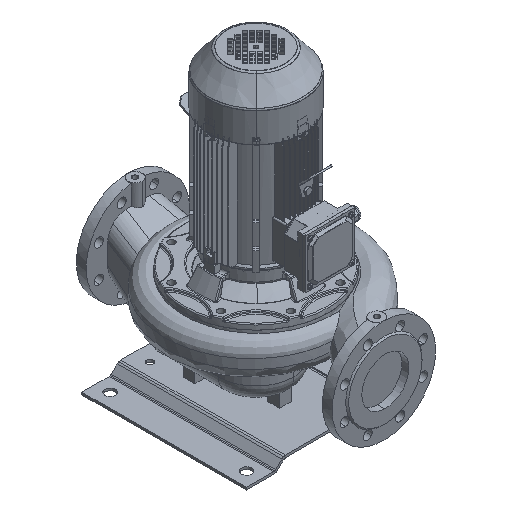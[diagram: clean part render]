
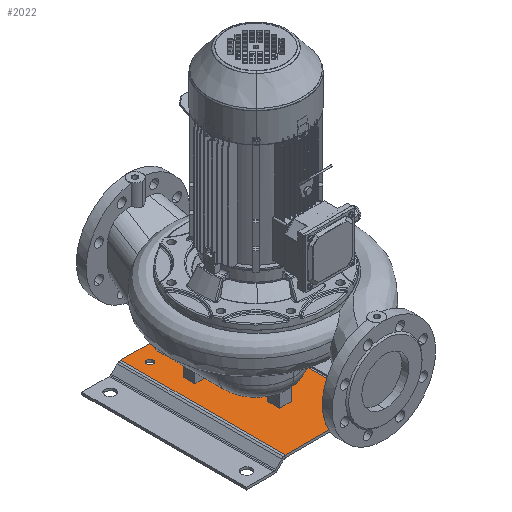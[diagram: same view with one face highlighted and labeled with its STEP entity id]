
A CAD part, isometric view. The second image highlights one B-rep face of the part: STEP entity #2022.
In plain terms, the highlighted planar face has unit normal (0, 0, 1) as drawn and (0, 1, 0) by its records, which use the part's own axes.
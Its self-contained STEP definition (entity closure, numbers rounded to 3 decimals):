
#2022=ADVANCED_FACE('',(#3682,#3683,#3684,#3685,#3686,#3687),#3688,.T.);
#2066=EDGE_CURVE('',#3762,#3763,#3764,.T.);
#3682=FACE_BOUND('',#10137,.T.);
#3683=FACE_BOUND('',#10138,.T.);
#3684=FACE_BOUND('',#10139,.T.);
#3685=FACE_BOUND('',#10140,.T.);
#3686=FACE_BOUND('',#10141,.T.);
#3687=FACE_OUTER_BOUND('',#10142,.T.);
#3688=PLANE('',#10143);
#3762=VERTEX_POINT('',#10226);
#3763=VERTEX_POINT('',#10227);
#3764=LINE('',#10228,#10229);
#10137=EDGE_LOOP('',(#17737,#17738));
#10138=EDGE_LOOP('',(#17739,#17740));
#10139=EDGE_LOOP('',(#17741,#17742));
#10140=EDGE_LOOP('',(#17743,#17744));
#10141=EDGE_LOOP('',(#17745,#17746));
#10142=EDGE_LOOP('',(#17747,#17748,#17749,#17750));
#10143=AXIS2_PLACEMENT_3D('',#17751,#17752,#17753);
#10226=CARTESIAN_POINT('',(82.556,23.0,0.0));
#10227=CARTESIAN_POINT('',(267.444,23.0,0.0));
#10228=CARTESIAN_POINT('',(78.0,23.0,0.0));
#10229=VECTOR('',#17952,1.0);
#17737=ORIENTED_EDGE('',*,*,#31646,.T.);
#17738=ORIENTED_EDGE('',*,*,#31636,.T.);
#17739=ORIENTED_EDGE('',*,*,#31649,.T.);
#17740=ORIENTED_EDGE('',*,*,#31631,.T.);
#17741=ORIENTED_EDGE('',*,*,#31655,.T.);
#17742=ORIENTED_EDGE('',*,*,#31621,.T.);
#17743=ORIENTED_EDGE('',*,*,#31661,.T.);
#17744=ORIENTED_EDGE('',*,*,#31611,.T.);
#17745=ORIENTED_EDGE('',*,*,#31667,.T.);
#17746=ORIENTED_EDGE('',*,*,#31601,.T.);
#17747=ORIENTED_EDGE('',*,*,#31684,.F.);
#17748=ORIENTED_EDGE('',*,*,#31685,.F.);
#17749=ORIENTED_EDGE('',*,*,#31585,.F.);
#17750=ORIENTED_EDGE('',*,*,#2066,.F.);
#17751=CARTESIAN_POINT('',(126.5,23.0,0.0));
#17752=DIRECTION('',(0.0,1.0,0.0));
#17753=DIRECTION('',(-1.0,0.0,0.0));
#17952=DIRECTION('',(1.0,0.0,0.0));
#31585=EDGE_CURVE('',#3763,#50649,#50650,.T.);
#31601=EDGE_CURVE('',#50670,#50674,#50676,.T.);
#31611=EDGE_CURVE('',#50688,#50692,#50694,.T.);
#31621=EDGE_CURVE('',#50706,#50710,#50712,.T.);
#31631=EDGE_CURVE('',#50724,#50728,#50730,.T.);
#31636=EDGE_CURVE('',#50733,#50737,#50739,.T.);
#31646=EDGE_CURVE('',#50737,#50733,#50753,.T.);
#31649=EDGE_CURVE('',#50728,#50724,#50756,.T.);
#31655=EDGE_CURVE('',#50710,#50706,#50762,.T.);
#31661=EDGE_CURVE('',#50692,#50688,#50768,.T.);
#31667=EDGE_CURVE('',#50674,#50670,#50774,.T.);
#31684=EDGE_CURVE('',#50797,#3762,#50798,.T.);
#31685=EDGE_CURVE('',#50649,#50797,#50799,.T.);
#50649=VERTEX_POINT('',#59899);
#50650=LINE('',#59900,#59901);
#50670=VERTEX_POINT('',#59925);
#50674=VERTEX_POINT('',#59930);
#50676=CIRCLE('',#59933,7.0);
#50688=VERTEX_POINT('',#59947);
#50692=VERTEX_POINT('',#59952);
#50694=CIRCLE('',#59955,7.0);
#50706=VERTEX_POINT('',#59969);
#50710=VERTEX_POINT('',#59974);
#50712=CIRCLE('',#59977,7.0);
#50724=VERTEX_POINT('',#59991);
#50728=VERTEX_POINT('',#59996);
#50730=CIRCLE('',#59999,7.);
#50733=VERTEX_POINT('',#60002);
#50737=VERTEX_POINT('',#60007);
#50739=CIRCLE('',#60010,7.0);
#50753=CIRCLE('',#60026,7.0);
#50756=CIRCLE('',#60029,7.);
#50762=CIRCLE('',#60035,7.0);
#50768=CIRCLE('',#60041,7.0);
#50774=CIRCLE('',#60047,7.0);
#50797=VERTEX_POINT('',#60080);
#50798=LINE('',#60081,#60082);
#50799=LINE('',#60083,#60084);
#59899=CARTESIAN_POINT('',(267.444,23.0,350.0));
#59900=CARTESIAN_POINT('',(267.444,23.0,0.0));
#59901=VECTOR('',#70260,1.0);
#59925=CARTESIAN_POINT('',(240.,23.0,308.0));
#59930=CARTESIAN_POINT('',(240.,23.0,322.0));
#59933=AXIS2_PLACEMENT_3D('',#70285,#70286,#70287);
#59947=CARTESIAN_POINT('',(110.,23.0,308.0));
#59952=CARTESIAN_POINT('',(110.,23.0,322.0));
#59955=AXIS2_PLACEMENT_3D('',#70301,#70302,#70303);
#59969=CARTESIAN_POINT('',(130.,23.0,233.0));
#59974=CARTESIAN_POINT('',(130.,23.0,247.0));
#59977=AXIS2_PLACEMENT_3D('',#70317,#70318,#70319);
#59991=CARTESIAN_POINT('',(169.198,23.0,101.083));
#59996=CARTESIAN_POINT('',(180.802,23.0,108.917));
#59999=AXIS2_PLACEMENT_3D('',#70333,#70334,#70335);
#60002=CARTESIAN_POINT('',(220.,23.0,233.0));
#60007=CARTESIAN_POINT('',(220.,23.0,247.0));
#60010=AXIS2_PLACEMENT_3D('',#70341,#70342,#70343);
#60026=AXIS2_PLACEMENT_3D('',#70358,#70359,#70360);
#60029=AXIS2_PLACEMENT_3D('',#70364,#70365,#70366);
#60035=AXIS2_PLACEMENT_3D('',#70376,#70377,#70378);
#60041=AXIS2_PLACEMENT_3D('',#70388,#70389,#70390);
#60047=AXIS2_PLACEMENT_3D('',#70400,#70401,#70402);
#60080=CARTESIAN_POINT('',(82.556,23.0,350.0));
#60081=CARTESIAN_POINT('',(82.556,23.0,0.0));
#60082=VECTOR('',#70416,1.0);
#60083=CARTESIAN_POINT('',(272.,23.0,350.0));
#60084=VECTOR('',#70417,1.);
#70260=DIRECTION('',(0.0,0.0,1.0));
#70285=CARTESIAN_POINT('',(240.,23.0,315.0));
#70286=DIRECTION('',(0.0,-1.0,0.0));
#70287=DIRECTION('',(0.0,0.0,-1.0));
#70301=CARTESIAN_POINT('',(110.,23.0,315.0));
#70302=DIRECTION('',(0.0,-1.0,0.0));
#70303=DIRECTION('',(0.0,0.0,-1.0));
#70317=CARTESIAN_POINT('',(130.,23.0,240.0));
#70318=DIRECTION('',(0.0,-1.0,0.0));
#70319=DIRECTION('',(0.0,0.0,-1.0));
#70333=CARTESIAN_POINT('',(175.,23.0,105.0));
#70334=DIRECTION('',(-0.0,-1.0,0.0));
#70335=DIRECTION('',(-0.829,0.0,-0.56));
#70341=CARTESIAN_POINT('',(220.,23.0,240.0));
#70342=DIRECTION('',(0.0,-1.0,0.0));
#70343=DIRECTION('',(0.0,0.0,-1.0));
#70358=CARTESIAN_POINT('',(220.,23.0,240.0));
#70359=DIRECTION('',(0.0,-1.0,0.0));
#70360=DIRECTION('',(0.0,0.0,-1.0));
#70364=CARTESIAN_POINT('',(175.,23.0,105.0));
#70365=DIRECTION('',(-0.0,-1.0,0.0));
#70366=DIRECTION('',(-0.829,0.0,-0.56));
#70376=CARTESIAN_POINT('',(130.,23.0,240.0));
#70377=DIRECTION('',(0.0,-1.0,0.0));
#70378=DIRECTION('',(0.0,0.0,-1.0));
#70388=CARTESIAN_POINT('',(110.,23.0,315.0));
#70389=DIRECTION('',(0.0,-1.0,0.0));
#70390=DIRECTION('',(0.0,0.0,-1.0));
#70400=CARTESIAN_POINT('',(240.,23.0,315.0));
#70401=DIRECTION('',(0.0,-1.0,0.0));
#70402=DIRECTION('',(0.0,0.0,-1.0));
#70416=DIRECTION('',(0.0,0.0,-1.0));
#70417=DIRECTION('',(-1.0,0.0,0.0));
